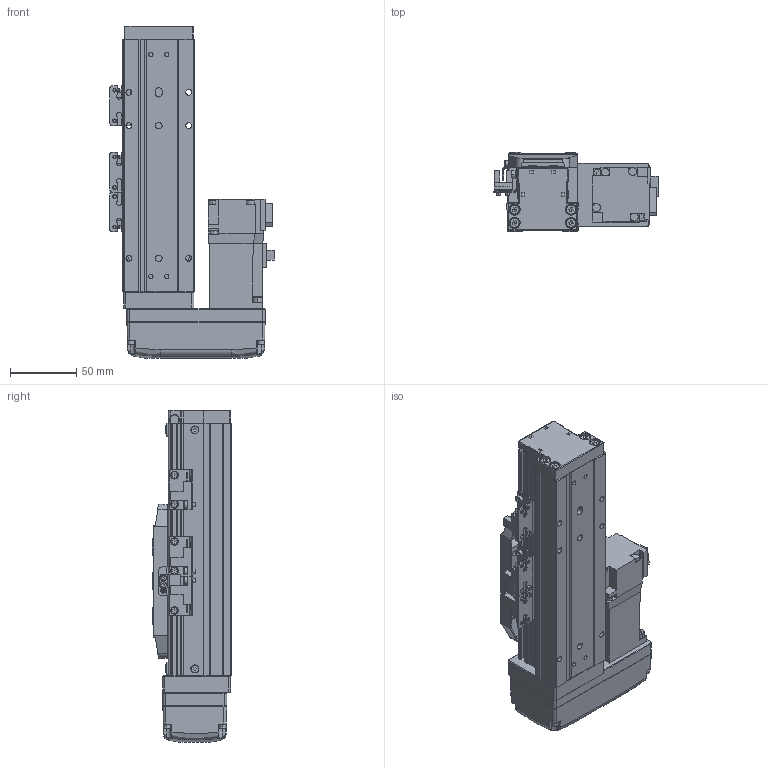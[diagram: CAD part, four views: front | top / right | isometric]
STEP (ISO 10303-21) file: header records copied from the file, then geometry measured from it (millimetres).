
FILE_DESCRIPTION (( 'STEP AP203' ), '1' );
FILE_NAME ('GTH5-50-BR-M10-C4.step', '2022-09-23T00:51:14', ( '微软用户' ), ( '微软中国' ), 'SwSTEP 2.0', 'SolidWorks 2020', '' );
FILE_SCHEMA (( 'CONFIG_CONTROL_DESIGN' ));
Length unit declared in the file: millimetre
Products named in the file (19): GBT 70.1-M4×16; GTH50-028; GTH50-003; GTH50-006; GTH50-022-1; GTH50-013; GTH50-004; HG-KR13; GTH50-023; GBT 70.1-M3℅6; GBT 70.3-M3℅6; GTH50-027-1_BTHA50-027-2; GBT96.1-2002 3×0.8; BTH-M3X5X6; GTH50-026; GTH50-024; GTH50-001_50; GTH5-50-BR-M10-C4; GBT 70.1-M2.5×6
Assembly tree (57 placements, depth 2):
  GTH5-50-BR-M10-C4
    GTH50-006
    GTH50-004
    GBT 70.3-M3℅6  x4
    BTH-M3X5X6  x8
    GTH50-001_50
    GBT 70.1-M4×16  x8
    GTH50-003
    GTH50-013
    GTH50-023  x3
    GBT 70.1-M3℅6  x12
    GBT96.1-2002 3×0.8  x6
    GTH50-024  x3
    GBT 70.1-M2.5×6  x2
    GTH50-028  x2
    GTH50-022-1
    HG-KR13
    GTH50-027-1_BTHA50-027-2
    GTH50-026
Bounding box: 123.6 x 60 x 250 mm (x, y, z)
Volume: 692201.3 mm3; surface area: 171236.7 mm2
Topology: 59 solids, 59 shells, 2140 faces, 4956 edges, 3036 vertices
Faces by surface type: plane 1142, cylinder 569, cone 219, torus 162, bspline 40, sphere 8
Entity records: 39420 total; most frequent: CARTESIAN_POINT 7827, DIRECTION 6045, ORIENTED_EDGE 5826, EDGE_CURVE 2913, AXIS2_PLACEMENT_3D 2092, VECTOR 1861, LINE 1861, VERTEX_POINT 1838
